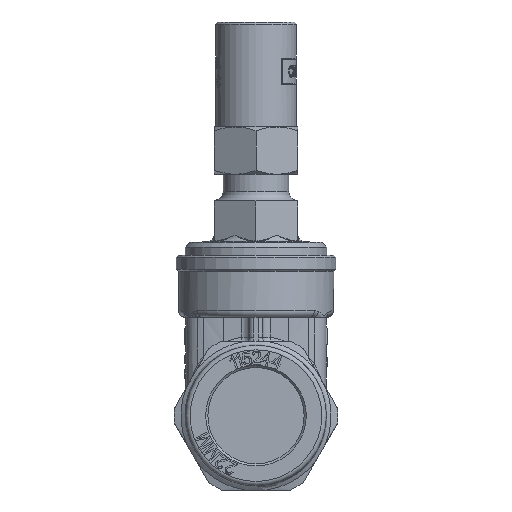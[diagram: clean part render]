
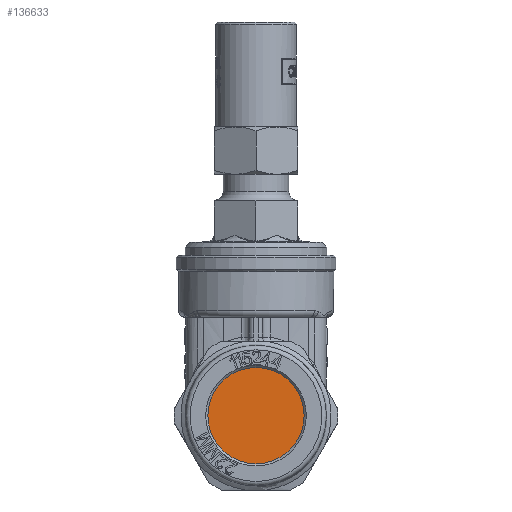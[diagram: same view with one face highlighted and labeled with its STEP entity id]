
A CAD part, left-side view. The second image highlights one B-rep face of the part: STEP entity #136633.
In plain terms, the highlighted planar face has unit normal (-1, 0, 0).
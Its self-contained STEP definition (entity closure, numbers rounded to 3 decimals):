
#136610=CARTESIAN_POINT('',(12.022,-11.112,0.0));
#136611=VERTEX_POINT('',#136610);
#136612=CARTESIAN_POINT('',(12.022,0.0,0.0));
#136613=DIRECTION('',(-1.0,0.0,0.0));
#136614=DIRECTION('',(0.0,-1.0,0.0));
#136615=AXIS2_PLACEMENT_3D('',#136612,#136613,#136614);
#136616=CIRCLE('',#136615,11.112);
#136617=EDGE_CURVE('',#136611,#136611,#136616,.T.);
#136625=CARTESIAN_POINT('',(12.022,-5.556,0.0));
#136626=DIRECTION('',(-1.0,0.0,0.0));
#136627=DIRECTION('',(0.0,0.0,1.0));
#136628=AXIS2_PLACEMENT_3D('',#136625,#136626,#136627);
#136629=PLANE('',#136628);
#136630=ORIENTED_EDGE('',*,*,#136617,.T.);
#136631=EDGE_LOOP('',(#136630));
#136632=FACE_OUTER_BOUND('',#136631,.T.);
#136633=ADVANCED_FACE('',(#136632),#136629,.T.);
